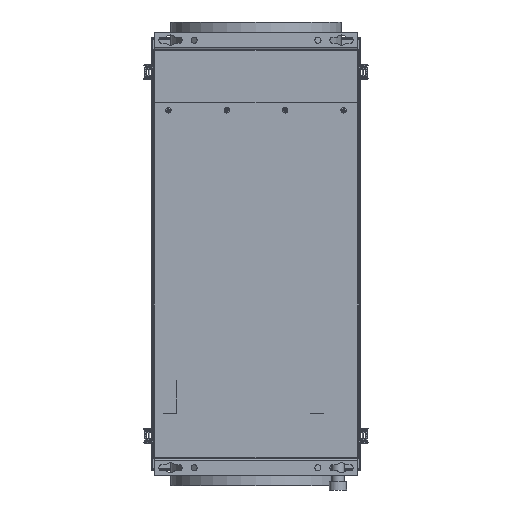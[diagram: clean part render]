
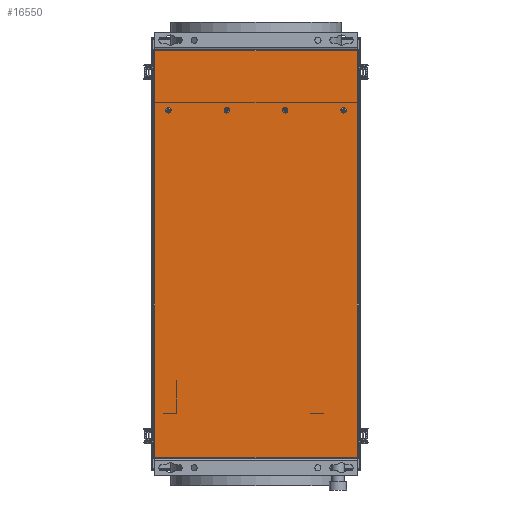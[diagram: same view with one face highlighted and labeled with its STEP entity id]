
A CAD part, front view. The second image highlights one B-rep face of the part: STEP entity #16550.
In plain terms, the highlighted planar face has unit normal (0, -1, 0).
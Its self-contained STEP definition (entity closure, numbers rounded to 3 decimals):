
#175 = EDGE_CURVE ( 'NONE', #6525, #8587, #17947, .T. ) ;
#254 = VERTEX_POINT ( 'NONE', #33317 ) ;
#310 = CARTESIAN_POINT ( 'NONE',  ( 128., 0., 210. ) ) ;
#439 = VERTEX_POINT ( 'NONE', #17549 ) ;
#1052 = CARTESIAN_POINT ( 'NONE',  ( -128., 0., 210. ) ) ;
#1980 = EDGE_CURVE ( 'NONE', #8587, #6525, #3680, .T. ) ;
#2287 = CIRCLE ( 'NONE', #4112, 2.1 ) ;
#2842 = EDGE_CURVE ( 'NONE', #18774, #4970, #5799, .T. ) ;
#3090 = DIRECTION ( 'NONE',  ( 0., 0., -1. ) ) ;
#3150 = ORIENTED_EDGE ( 'NONE', *, *, #2842, .T. ) ;
#3176 = CARTESIAN_POINT ( 'NONE',  ( 148., 0., 297. ) ) ;
#3318 = DIRECTION ( 'NONE',  ( -1., 0., 0. ) ) ;
#3680 = CIRCLE ( 'NONE', #28918, 2.1 ) ;
#3811 = DIRECTION ( 'NONE',  ( 0., 0., -1. ) ) ;
#4112 = AXIS2_PLACEMENT_3D ( 'NONE', #1052, #20255, #3811 ) ;
#4223 = VERTEX_POINT ( 'NONE', #18576 ) ;
#4279 = CARTESIAN_POINT ( 'NONE',  ( -128., 0., 210. ) ) ;
#4970 = VERTEX_POINT ( 'NONE', #3176 ) ;
#4989 = EDGE_CURVE ( 'NONE', #30756, #19522, #11217, .T. ) ;
#5063 = EDGE_CURVE ( 'NONE', #24370, #254, #7805, .T. ) ;
#5553 = CARTESIAN_POINT ( 'NONE',  ( -42.667, 0., 207.9 ) ) ;
#5639 = FACE_BOUND ( 'NONE', #7255, .T. ) ;
#5755 = ORIENTED_EDGE ( 'NONE', *, *, #4989, .F. ) ;
#5799 = LINE ( 'NONE', #33521, #34253 ) ;
#5881 = CARTESIAN_POINT ( 'NONE',  ( 150., 0., 299. ) ) ;
#6165 = CARTESIAN_POINT ( 'NONE',  ( -42.667, 0., 210. ) ) ;
#6525 = VERTEX_POINT ( 'NONE', #20649 ) ;
#6754 = DIRECTION ( 'NONE',  ( 0., -1., 0. ) ) ;
#6796 = EDGE_LOOP ( 'NONE', ( #22544, #5755 ) ) ;
#7034 = DIRECTION ( 'NONE',  ( 0., 0., -1. ) ) ;
#7179 = LINE ( 'NONE', #17002, #27348 ) ;
#7255 = EDGE_LOOP ( 'NONE', ( #8390, #24694 ) ) ;
#7369 = AXIS2_PLACEMENT_3D ( 'NONE', #5881, #25080, #8644 ) ;
#7805 = CIRCLE ( 'NONE', #15429, 2.1 ) ;
#7872 = DIRECTION ( 'NONE',  ( 0., 0., -1. ) ) ;
#7950 = EDGE_CURVE ( 'NONE', #4223, #439, #16664, .T. ) ;
#8092 = EDGE_CURVE ( 'NONE', #29011, #24824, #12362, .T. ) ;
#8390 = ORIENTED_EDGE ( 'NONE', *, *, #5063, .F. ) ;
#8587 = VERTEX_POINT ( 'NONE', #13797 ) ;
#8644 = DIRECTION ( 'NONE',  ( 0., 0., -1. ) ) ;
#8934 = DIRECTION ( 'NONE',  ( 0., 0., -1. ) ) ;
#9506 = ORIENTED_EDGE ( 'NONE', *, *, #1980, .F. ) ;
#9698 = EDGE_LOOP ( 'NONE', ( #14956, #31300, #3150, #23364 ) ) ;
#9801 = DIRECTION ( 'NONE',  ( 0., 0., -1. ) ) ;
#9885 = EDGE_CURVE ( 'NONE', #24824, #18774, #29456, .T. ) ;
#11032 = CARTESIAN_POINT ( 'NONE',  ( -148., 0., 297. ) ) ;
#11217 = CIRCLE ( 'NONE', #32745, 2.1 ) ;
#11485 = VECTOR ( 'NONE', #7872, 1000. ) ;
#11492 = CARTESIAN_POINT ( 'NONE',  ( -42.667, 0., 212.1 ) ) ;
#12362 = LINE ( 'NONE', #32423, #11485 ) ;
#12566 = DIRECTION ( 'NONE',  ( 0., -1., 0. ) ) ;
#12941 = FACE_BOUND ( 'NONE', #17907, .T. ) ;
#13797 = CARTESIAN_POINT ( 'NONE',  ( 42.667, 0., 212.1 ) ) ;
#14956 = ORIENTED_EDGE ( 'NONE', *, *, #8092, .T. ) ;
#15331 = CARTESIAN_POINT ( 'NONE',  ( 42.667, 0., 210. ) ) ;
#15429 = AXIS2_PLACEMENT_3D ( 'NONE', #23187, #6754, #25978 ) ;
#15604 = CARTESIAN_POINT ( 'NONE',  ( -42.667, 0., 210. ) ) ;
#15692 = EDGE_CURVE ( 'NONE', #439, #4223, #2287, .T. ) ;
#16550 = ADVANCED_FACE ( 'NONE', ( #12941, #5639, #27554, #34944, #34089 ), #19583, .T. ) ;
#16664 = CIRCLE ( 'NONE', #28652, 2.1 ) ;
#17002 = CARTESIAN_POINT ( 'NONE',  ( 148., 0., 297. ) ) ;
#17014 = DIRECTION ( 'NONE',  ( 0., 0., 1. ) ) ;
#17549 = CARTESIAN_POINT ( 'NONE',  ( -128., 0., 212.1 ) ) ;
#17838 = EDGE_CURVE ( 'NONE', #19522, #30756, #24067, .T. ) ;
#17907 = EDGE_LOOP ( 'NONE', ( #25920, #9506 ) ) ;
#17947 = CIRCLE ( 'NONE', #32591, 2.1 ) ;
#18365 = DIRECTION ( 'NONE',  ( 0., 0., -1. ) ) ;
#18548 = ORIENTED_EDGE ( 'NONE', *, *, #15692, .F. ) ;
#18576 = CARTESIAN_POINT ( 'NONE',  ( -128., 0., 207.9 ) ) ;
#18774 = VERTEX_POINT ( 'NONE', #20465 ) ;
#19522 = VERTEX_POINT ( 'NONE', #5553 ) ;
#19543 = DIRECTION ( 'NONE',  ( 0., -1., 0. ) ) ;
#19583 = PLANE ( 'NONE',  #7369 ) ;
#20255 = DIRECTION ( 'NONE',  ( 0., -1., 0. ) ) ;
#20465 = CARTESIAN_POINT ( 'NONE',  ( 148., 0., -297. ) ) ;
#20649 = CARTESIAN_POINT ( 'NONE',  ( 42.667, 0., 207.9 ) ) ;
#21989 = CARTESIAN_POINT ( 'NONE',  ( -148., 0., -297. ) ) ;
#22123 = VECTOR ( 'NONE', #27392, 1000. ) ;
#22544 = ORIENTED_EDGE ( 'NONE', *, *, #17838, .F. ) ;
#22618 = CARTESIAN_POINT ( 'NONE',  ( -148., 0., -297. ) ) ;
#23187 = CARTESIAN_POINT ( 'NONE',  ( 128., 0., 210. ) ) ;
#23364 = ORIENTED_EDGE ( 'NONE', *, *, #26175, .T. ) ;
#23471 = DIRECTION ( 'NONE',  ( 0., -1., 0. ) ) ;
#24067 = CIRCLE ( 'NONE', #24167, 2.1 ) ;
#24167 = AXIS2_PLACEMENT_3D ( 'NONE', #15604, #34894, #18365 ) ;
#24370 = VERTEX_POINT ( 'NONE', #28443 ) ;
#24694 = ORIENTED_EDGE ( 'NONE', *, *, #29646, .F. ) ;
#24753 = ORIENTED_EDGE ( 'NONE', *, *, #7950, .F. ) ;
#24824 = VERTEX_POINT ( 'NONE', #22618 ) ;
#25080 = DIRECTION ( 'NONE',  ( 0., -1., 0. ) ) ;
#25113 = DIRECTION ( 'NONE',  ( 0., -1., 0. ) ) ;
#25353 = DIRECTION ( 'NONE',  ( 0., -1., 0. ) ) ;
#25920 = ORIENTED_EDGE ( 'NONE', *, *, #175, .F. ) ;
#25978 = DIRECTION ( 'NONE',  ( 0., 0., -1. ) ) ;
#26175 = EDGE_CURVE ( 'NONE', #4970, #29011, #7179, .T. ) ;
#27348 = VECTOR ( 'NONE', #3318, 1000. ) ;
#27392 = DIRECTION ( 'NONE',  ( 1., 0., 0. ) ) ;
#27554 = FACE_OUTER_BOUND ( 'NONE', #9698, .T. ) ;
#28443 = CARTESIAN_POINT ( 'NONE',  ( 128., 0., 207.9 ) ) ;
#28652 = AXIS2_PLACEMENT_3D ( 'NONE', #4279, #23471, #7034 ) ;
#28918 = AXIS2_PLACEMENT_3D ( 'NONE', #32820, #25113, #32488 ) ;
#29011 = VERTEX_POINT ( 'NONE', #11032 ) ;
#29456 = LINE ( 'NONE', #21989, #22123 ) ;
#29646 = EDGE_CURVE ( 'NONE', #254, #24370, #33193, .T. ) ;
#30063 = AXIS2_PLACEMENT_3D ( 'NONE', #310, #19543, #3090 ) ;
#30756 = VERTEX_POINT ( 'NONE', #11492 ) ;
#31300 = ORIENTED_EDGE ( 'NONE', *, *, #9885, .T. ) ;
#32423 = CARTESIAN_POINT ( 'NONE',  ( -148., 0., 299. ) ) ;
#32488 = DIRECTION ( 'NONE',  ( 0., 0., -1. ) ) ;
#32591 = AXIS2_PLACEMENT_3D ( 'NONE', #15331, #12566, #9801 ) ;
#32745 = AXIS2_PLACEMENT_3D ( 'NONE', #6165, #25353, #8934 ) ;
#32820 = CARTESIAN_POINT ( 'NONE',  ( 42.667, 0., 210. ) ) ;
#33193 = CIRCLE ( 'NONE', #30063, 2.1 ) ;
#33277 = EDGE_LOOP ( 'NONE', ( #24753, #18548 ) ) ;
#33317 = CARTESIAN_POINT ( 'NONE',  ( 128., 0., 212.1 ) ) ;
#33521 = CARTESIAN_POINT ( 'NONE',  ( 148., 0., -299. ) ) ;
#34089 = FACE_BOUND ( 'NONE', #33277, .T. ) ;
#34253 = VECTOR ( 'NONE', #17014, 1000. ) ;
#34894 = DIRECTION ( 'NONE',  ( 0., -1., 0. ) ) ;
#34944 = FACE_BOUND ( 'NONE', #6796, .T. ) ;
